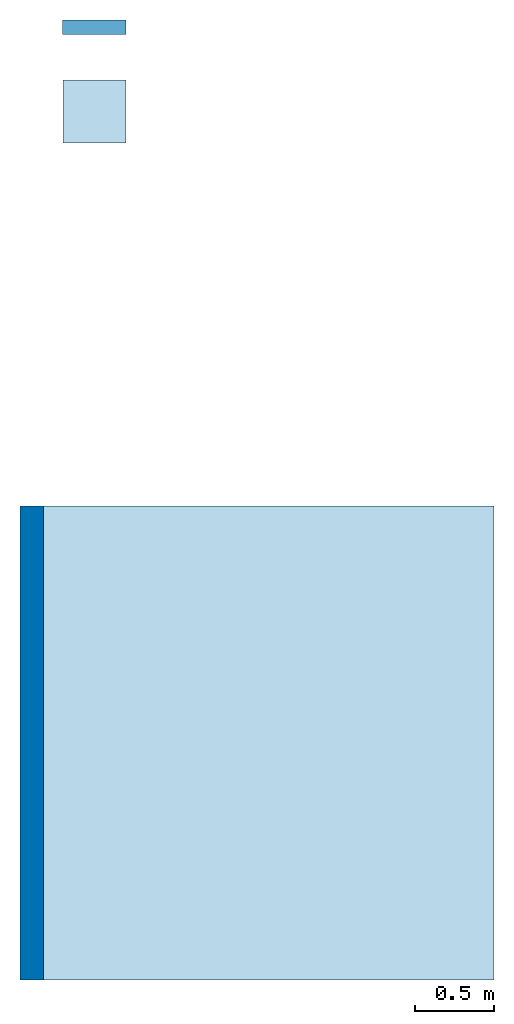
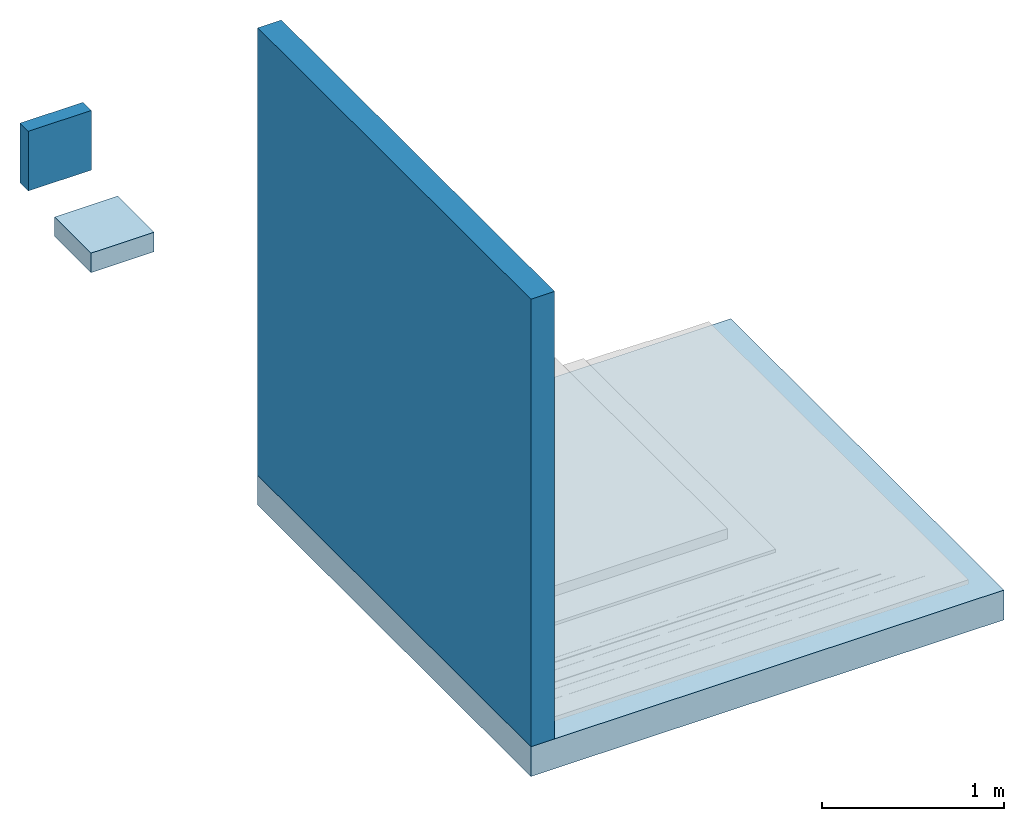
# One storey, incomplete: 2 slabs, 2 walls.
"""IFC2X3 building model written with IfcOpenShell, lengths in metres."""

from ifc_helpers import new_model, entity, si_unit, converted_unit, derived_unit, direction, frame, frame_2d, origin, origin_2d_with_axis, place, context, subcontext, project, spatial, rectangle, extrude, material, layer, layer_set, layer_usage, type_object, element, save


model = new_model("IFC2X3")

# Units and contexts
model_context = context("Model", 3, precision=1e-05, world=origin(), true_north=direction((6.123031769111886e-17, 1.0)))
body_context = subcontext(model_context, "Body", "Model", "MODEL_VIEW")
ifc_project = project(units=[si_unit("LENGTHUNIT", "METRE"), si_unit("AREAUNIT", "SQUARE_METRE"), si_unit("VOLUMEUNIT", "CUBIC_METRE"), converted_unit("PLANEANGLEUNIT", "DEGREE", entity("IfcRatioMeasure", 0.017453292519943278), si_unit("PLANEANGLEUNIT", "RADIAN"), dimensions=[0, 0, 0, 0, 0, 0, 0]), si_unit("MASSUNIT", "GRAM", prefix="KILO"), derived_unit("MASSDENSITYUNIT", [(si_unit("MASSUNIT", "GRAM", prefix="KILO"), 1), (si_unit("LENGTHUNIT", "METRE"), -3)]), derived_unit("IONCONCENTRATIONUNIT", [(si_unit("MASSUNIT", "GRAM", prefix="KILO"), 1), (si_unit("LENGTHUNIT", "METRE"), -3)]), derived_unit("MOMENTOFINERTIAUNIT", [(si_unit("LENGTHUNIT", "METRE"), 4)]), si_unit("TIMEUNIT", "SECOND"), si_unit("FREQUENCYUNIT", "HERTZ"), si_unit("THERMODYNAMICTEMPERATUREUNIT", "DEGREE_CELSIUS"), derived_unit("THERMALTRANSMITTANCEUNIT", [(si_unit("MASSUNIT", "GRAM", prefix="KILO"), 1), (si_unit("THERMODYNAMICTEMPERATUREUNIT", "KELVIN"), -1), (si_unit("TIMEUNIT", "SECOND"), -3)]), derived_unit("THERMALCONDUCTANCEUNIT", [(si_unit("MASSUNIT", "GRAM", prefix="KILO"), 1), (si_unit("THERMODYNAMICTEMPERATUREUNIT", "KELVIN"), -1), (si_unit("TIMEUNIT", "SECOND"), -3), (si_unit("LENGTHUNIT", "METRE"), 1)]), derived_unit("VOLUMETRICFLOWRATEUNIT", [(si_unit("LENGTHUNIT", "METRE"), 3), (si_unit("TIMEUNIT", "SECOND"), -1)]), derived_unit("MASSFLOWRATEUNIT", [(si_unit("MASSUNIT", "GRAM", prefix="KILO"), 1), (si_unit("TIMEUNIT", "SECOND"), -1)]), derived_unit("ROTATIONALFREQUENCYUNIT", [(si_unit("TIMEUNIT", "SECOND"), -1)]), si_unit("ELECTRICCURRENTUNIT", "AMPERE"), si_unit("ELECTRICVOLTAGEUNIT", "VOLT"), si_unit("POWERUNIT", "WATT"), si_unit("FORCEUNIT", "NEWTON", prefix="KILO"), si_unit("ILLUMINANCEUNIT", "LUX"), si_unit("LUMINOUSFLUXUNIT", "LUMEN"), si_unit("LUMINOUSINTENSITYUNIT", "CANDELA"), derived_unit("USERDEFINED", [(si_unit("MASSUNIT", "GRAM", prefix="KILO"), -1), (si_unit("LENGTHUNIT", "METRE"), -2), (si_unit("TIMEUNIT", "SECOND"), 3), (si_unit("LUMINOUSFLUXUNIT", "LUMEN"), 1)]), derived_unit("USERDEFINED", [(si_unit("MASSUNIT", "GRAM", prefix="KILO"), 1), (si_unit("TIMEUNIT", "SECOND"), -3), (si_unit("LENGTHUNIT", "METRE"), 3), (si_unit("ELECTRICCURRENTUNIT", "AMPERE"), -2)]), derived_unit("SOUNDPOWERUNIT", [(si_unit("MASSUNIT", "GRAM", prefix="KILO"), 1), (si_unit("TIMEUNIT", "SECOND"), -3), (si_unit("LENGTHUNIT", "METRE"), 2)]), derived_unit("SOUNDPRESSUREUNIT", [(si_unit("MASSUNIT", "GRAM", prefix="KILO"), 1), (si_unit("LENGTHUNIT", "METRE"), -1), (si_unit("TIMEUNIT", "SECOND"), -2)]), derived_unit("LINEARVELOCITYUNIT", [(si_unit("LENGTHUNIT", "METRE"), 1), (si_unit("TIMEUNIT", "SECOND"), -1)]), si_unit("PRESSUREUNIT", "PASCAL"), derived_unit("USERDEFINED", [(si_unit("MASSUNIT", "GRAM", prefix="KILO"), 1), (si_unit("LENGTHUNIT", "METRE"), -2), (si_unit("TIMEUNIT", "SECOND"), -2)]), derived_unit("LINEARFORCEUNIT", [(si_unit("MASSUNIT", "GRAM", prefix="KILO"), 1), (si_unit("TIMEUNIT", "SECOND"), -2)]), derived_unit("PLANARFORCEUNIT", [(si_unit("MASSUNIT", "GRAM", prefix="KILO"), 1), (si_unit("LENGTHUNIT", "METRE"), -1), (si_unit("TIMEUNIT", "SECOND"), -2)]), derived_unit("SPECIFICHEATCAPACITYUNIT", [(si_unit("THERMODYNAMICTEMPERATUREUNIT", "KELVIN"), -1), (si_unit("LENGTHUNIT", "METRE"), 2), (si_unit("TIMEUNIT", "SECOND"), -2)]), derived_unit("HEATINGVALUEUNIT", [(si_unit("LENGTHUNIT", "METRE"), 2), (si_unit("TIMEUNIT", "SECOND"), -2)]), derived_unit("VAPORPERMEABILITYUNIT", [(si_unit("LENGTHUNIT", "METRE"), -1), (si_unit("TIMEUNIT", "SECOND"), 1)]), derived_unit("DYNAMICVISCOSITYUNIT", [(si_unit("MASSUNIT", "GRAM", prefix="KILO"), 1), (si_unit("TIMEUNIT", "SECOND"), -1), (si_unit("LENGTHUNIT", "METRE"), -1)]), derived_unit("THERMALEXPANSIONCOEFFICIENTUNIT", [(si_unit("THERMODYNAMICTEMPERATUREUNIT", "KELVIN"), -1)]), derived_unit("MODULUSOFELASTICITYUNIT", [(si_unit("MASSUNIT", "GRAM", prefix="KILO"), 1), (si_unit("LENGTHUNIT", "METRE"), -1), (si_unit("TIMEUNIT", "SECOND"), -2)]), derived_unit("ISOTHERMALMOISTURECAPACITYUNIT", [(si_unit("LENGTHUNIT", "METRE"), 3), (si_unit("MASSUNIT", "GRAM", prefix="KILO"), -1)]), derived_unit("MOISTUREDIFFUSIVITYUNIT", [(si_unit("TIMEUNIT", "SECOND"), -1), (si_unit("LENGTHUNIT", "METRE"), 2)])], contexts=[model_context])

# Site, building, storey
site_placement = place(None, origin())
site = spatial("IfcSite", under=ifc_project, at=site_placement, Name="Default", CompositionType="ELEMENT")
building_placement = place(site_placement, origin())
building = spatial("IfcBuilding", under=site, at=building_placement, CompositionType="ELEMENT")
storey_placement = place(building_placement, frame((0.0, 0.0, -0.0025237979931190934)))
storey = spatial("IfcBuildingStorey", under=building, at=storey_placement, Name="ARQ Térreo", CompositionType="ELEMENT", Elevation=-0.0025237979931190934)

# Slabs
ifc_material_1 = material(Name="#concreto")
ifc_layer_1 = layer(ifc_material_1, 0.2)
ifc_layer_set_1 = layer_set([ifc_layer_1], Name="Piso:Piso:LAJE CONCRETO")
ifc_layer_usage_1 = layer_usage(ifc_layer_set_1, "AXIS3", "POSITIVE", 0.0)
slab_type_1 = type_object("IfcSlabType", Name="Piso:Piso:LAJE CONCRETO", PredefinedType="FLOOR", material=ifc_layer_set_1)
slab_1_placement = place(storey_placement, origin())
element("IfcSlab", 1, at=slab_1_placement, inside=storey, type_object=slab_type_1, material=ifc_layer_usage_1, Name="Piso:Piso:LAJE CONCRETO", ObjectType="Piso:Piso:LAJE CONCRETO", PredefinedType="FLOOR", context=body_context, shape_type="SweptSolid", body=[
    extrude(rectangle(XDim=3.0000000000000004, YDim=3.0000000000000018, at=origin_2d_with_axis()), frame((0.9980295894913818, -1.354129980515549, 0.0), z_axis=(0.0, 0.0, -1.0), x_axis=(0.0, 1.0, 0.0)), (0.0, 0.0, 1.0), 0.2),
])
ifc_material_2 = material(Name="#proteção mecânica")
ifc_layer_2 = layer(ifc_material_2, 0.07)
ifc_material_3 = material(Name="#camada amortecedora")
ifc_layer_3 = layer(ifc_material_3, 0.02)
ifc_material_4 = material(Name="#Asfalto Modificado NBR II")
ifc_layer_4 = layer(ifc_material_4, 0.0009999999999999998)
ifc_material_5 = material(Name="# Torodin 4mm - TIPO III - Classe A")
ifc_layer_5 = layer(ifc_material_5, 0.003999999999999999)
ifc_layer_6 = layer(ifc_material_4, 0.0009999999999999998)
ifc_material_6 = material(Name="# Torodin 3mm - TIPO III - Classe A")
ifc_layer_7 = layer(ifc_material_6, 0.003)
ifc_layer_8 = layer(ifc_material_4, 0.0009999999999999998)
ifc_material_7 = material(Name="#Primer Adeflex")
ifc_layer_9 = layer(ifc_material_7, 0.0009999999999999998)
ifc_material_8 = material(Name="#argamassa")
ifc_layer_10 = layer(ifc_material_8, 0.03)
ifc_layer_set_2 = layer_set([ifc_layer_2, ifc_layer_3, ifc_layer_4, ifc_layer_5, ifc_layer_6, ifc_layer_7, ifc_layer_8, ifc_layer_9, ifc_layer_10], Name="Piso:IMPH_T3AA+T4AA")
ifc_layer_usage_2 = layer_usage(ifc_layer_set_2, "AXIS3", "POSITIVE", 0.0)
slab_type_2 = type_object("IfcSlabType", Name="Piso:IMPH_T3AA+T4AA", PredefinedType="FLOOR", material=ifc_layer_set_2)
slab_2_placement = place(storey_placement, origin())
element("IfcSlab", 2, at=slab_2_placement, inside=storey, type_object=slab_type_2, material=ifc_layer_usage_2, Name="Piso:IMPH_T3AA+T4AA", ObjectType="Piso:IMPH_T3AA+T4AA", PredefinedType="FLOOR", context=body_context, shape_type="SweptSolid", body=[
    extrude(rectangle(XDim=0.4, YDim=0.4, at=origin_2d_with_axis()), frame((-0.03079527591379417, 2.6458700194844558, 0.0), z_axis=(0.0, 0.0, -1.0), x_axis=(0.0, 1.0, 0.0)), (0.0, 0.0, 1.0), 0.13099999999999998),
])

# Walls
ifc_layer_11 = layer(ifc_material_1, 0.14999999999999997)
ifc_layer_set_3 = layer_set([ifc_layer_11], Name="Parede básica:Parede básica:Parede Concreto")
ifc_layer_usage_3 = layer_usage(ifc_layer_set_3, "AXIS2", "NEGATIVE", 0.07499999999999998)
wall_type_1 = type_object("IfcWallType", Name="Parede básica:Parede básica:Parede Concreto", PredefinedType="STANDARD", material=ifc_layer_set_3)
wall_1_placement = place(storey_placement, frame((-0.4269704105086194, 0.14587001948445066, 0.0), z_axis=(0.0, 0.0, 1.0), x_axis=(0.0, -1.0, 0.0)))
element("IfcWallStandardCase", 3, at=wall_1_placement, inside=storey, type_object=wall_type_1, material=ifc_layer_usage_3, Name="Parede básica:Parede Concreto", ObjectType="Parede básica:Parede Concreto", context=body_context, shape_type="SweptSolid", body=[
    extrude(rectangle(XDim=2.9999999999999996, YDim=0.15000000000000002, at=frame_2d((1.4999999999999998, 0.0), x_axis=(-1.0, 0.0))), origin(), (0.0, 0.0, 1.0), 2.9999999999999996),
])
ifc_layer_12 = layer(ifc_material_2, 0.07)
ifc_layer_13 = layer(ifc_material_4, 0.0009999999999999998)
ifc_layer_14 = layer(ifc_material_5, 0.003999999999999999)
ifc_layer_15 = layer(ifc_material_4, 0.0009999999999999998)
ifc_layer_16 = layer(ifc_material_6, 0.003)
ifc_layer_17 = layer(ifc_material_4, 0.0009999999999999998)
ifc_layer_18 = layer(ifc_material_7, 0.0009999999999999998)
ifc_layer_19 = layer(ifc_material_8, 0.01)
ifc_layer_set_4 = layer_set([ifc_layer_12, ifc_layer_13, ifc_layer_14, ifc_layer_15, ifc_layer_16, ifc_layer_17, ifc_layer_18, ifc_layer_19], Name="Parede básica:IMPV_T3PP+T4PP")
ifc_layer_usage_4 = layer_usage(ifc_layer_set_4, "AXIS2", "NEGATIVE", 0.045500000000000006)
wall_type_2 = type_object("IfcWallType", Name="Parede básica:IMPV_T3PP+T4PP", PredefinedType="STANDARD", material=ifc_layer_set_4)
wall_2_placement = place(storey_placement, frame((0.1680943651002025, 3.1789180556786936, 0.0), z_axis=(0.0, 0.0, 1.0), x_axis=(-1.0, 0.0, 0.0)))
element("IfcWallStandardCase", 4, at=wall_2_placement, inside=storey, type_object=wall_type_2, material=ifc_layer_usage_4, Name="Parede básica:IMPV_T4PP", ObjectType="Parede básica:IMPV_T4PP", context=body_context, shape_type="SweptSolid", body=[
    extrude(rectangle(XDim=0.4000000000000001, YDim=0.09099999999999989, at=frame_2d((0.20000000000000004, -1.9081958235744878e-16), x_axis=(-1.0, 0.0))), origin(), (0.0, 0.0, 1.0), 0.4),
])

save(model, "model.ifc")
